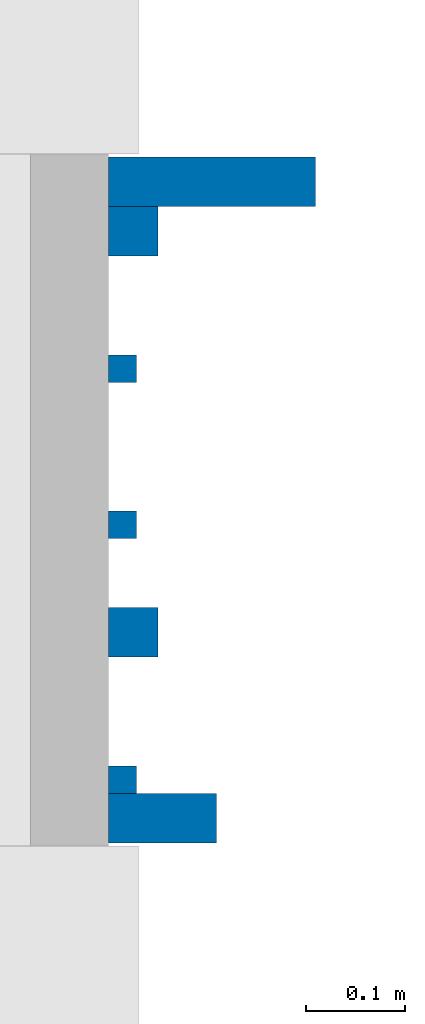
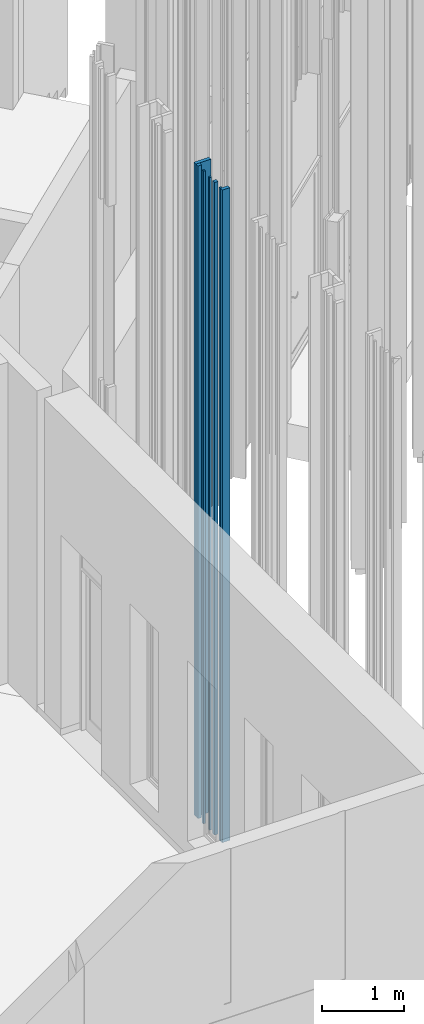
# One storey, part 191 of 390: 7 walls.
"""IFC2X3 building model written with IfcOpenShell, lengths in millimetres."""

from ifc_helpers import new_model, entity, si_unit, converted_unit, derived_unit, money_unit, direction, frame, origin_with_axes, place, context, subcontext, project, spatial, faceted_brep, material, type_object, element, save


model = new_model("IFC2X3")

# Units and contexts
model_context = context("Model", 3, precision=1e-05, world=origin_with_axes(), true_north=direction((0.0, 1.0)))
body_context = subcontext(model_context, "Body", "Model", "MODEL_VIEW")
ifc_project = project(units=[si_unit("LENGTHUNIT", "METRE", prefix="MILLI"), si_unit("AREAUNIT", "SQUARE_METRE"), si_unit("VOLUMEUNIT", "CUBIC_METRE"), converted_unit("PLANEANGLEUNIT", "DEGREE", entity("IfcPlaneAngleMeasure", 0.0174532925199), si_unit("PLANEANGLEUNIT", "RADIAN"), dimensions=[0, 0, 0, 0, 0, 0, 0]), si_unit("SOLIDANGLEUNIT", "STERADIAN"), money_unit("EUR"), converted_unit("TIMEUNIT", "Year", entity("IfcTimeMeasure", 31556926.0), si_unit("TIMEUNIT", "SECOND"), dimensions=[0, 0, 1, 0, 0, 0, 0]), si_unit("MASSUNIT", "GRAM", prefix="KILO"), si_unit("THERMODYNAMICTEMPERATUREUNIT", "DEGREE_CELSIUS"), si_unit("LUMINOUSINTENSITYUNIT", "LUMEN"), si_unit("ENERGYUNIT", "JOULE", prefix="MEGA"), derived_unit("THERMALCONDUCTANCEUNIT", [(si_unit("POWERUNIT", "WATT"), 1), (si_unit("LENGTHUNIT", "METRE"), -1), (si_unit("THERMODYNAMICTEMPERATUREUNIT", "KELVIN"), -1)]), derived_unit("SPECIFICHEATCAPACITYUNIT", [(si_unit("ENERGYUNIT", "JOULE"), 1), (si_unit("MASSUNIT", "GRAM", prefix="KILO"), -1), (si_unit("THERMODYNAMICTEMPERATUREUNIT", "KELVIN"), -1)]), derived_unit("MASSDENSITYUNIT", [(si_unit("MASSUNIT", "GRAM", prefix="KILO"), 1), (si_unit("VOLUMEUNIT", "CUBIC_METRE"), -1)])], contexts=[model_context])

# Site, building, storey
site_placement = place(None, origin_with_axes())
site = spatial("IfcSite", under=ifc_project, at=site_placement, Name="Site", CompositionType="ELEMENT")
building_placement = place(site_placement, origin_with_axes())
building = spatial("IfcBuilding", under=site, at=building_placement, Name="Building", CompositionType="ELEMENT")
storey_placement = place(building_placement, origin_with_axes())
storey = spatial("IfcBuildingStorey", under=building, at=storey_placement, Name="1 korrus", CompositionType="ELEMENT", Elevation=0.0)

# Walls
ifc_material = material(Name="Site specified")
wall_type = type_object("IfcWallType", Name="Puitfassaadi ribistik", PredefinedType="NOTDEFINED")
wall_1_placement = place(storey_placement, frame((139891.499998, 63572.0000087, 100.000000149), z_axis=(0.0, 0.0, 1.0), x_axis=(0.0, -1.0, 0.0)))
element("IfcWall", 1, at=wall_1_placement, inside=storey, type_object=wall_type, material=ifc_material, Name="Site specified", context=body_context, shape_type="Brep", body=[
    faceted_brep([(-25.0, -104.5, 9764.99999985), (-25.0, -104.5, 0.0), (25.0, -104.5, 0.0), (25.0, -104.5, 9764.99999985), (-25.0, 104.5, 9764.99999985), (-25.0, 104.5, 0.0), (25.0, 104.5, 0.0), (25.0, 104.5, 9764.99999985)], [[[0, 1, 2, 3]], [[4, 5, 1, 0]], [[2, 1, 5, 6]], [[3, 2, 6, 7]], [[4, 0, 3, 7]], [[7, 6, 5, 4]]]),
])
wall_2_placement = place(storey_placement, frame((139841.499998, 62928.0000087, 100.000000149), z_axis=(0.0, 0.0, 1.0), x_axis=(0.0, -1.0, 0.0)))
element("IfcWall", 2, at=wall_2_placement, inside=storey, type_object=wall_type, material=ifc_material, Name="Site specified", context=body_context, shape_type="Brep", body=[
    faceted_brep([(-25.0, -54.5, 9764.99999985), (-25.0, -54.5, 0.0), (25.0, -54.5, 0.0), (25.0, -54.5, 9764.99999985), (-25.0, 54.5, 9764.99999985), (-25.0, 54.5, 0.0), (25.0, 54.5, 0.0), (25.0, 54.5, 9764.99999985)], [[[0, 1, 2, 3]], [[4, 5, 1, 0]], [[2, 1, 5, 6]], [[3, 2, 6, 7]], [[4, 0, 3, 7]], [[7, 6, 5, 4]]]),
])
for number, where, z_axis, x_axis, name in (
    (3, (139800.999998, 62967.0000087, 100.000000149), (0.0, 0.0, 1.0), (0.0, -1.0, 0.0), "Site specified"),
    (4, (139800.999997, 63225.0000087, 100.000000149), (0.0, 0.0, 1.0), (0.0, -1.0, 0.0), "Site specified"),
):
    element("IfcWall", number, at=place(storey_placement, frame(where, z_axis=z_axis, x_axis=x_axis)), inside=storey, type_object=wall_type, material=ifc_material, Name=name, context=body_context, shape_type="Brep", body=[
        faceted_brep([(-14.0, -14.0, 9764.99999985), (-14.0, -14.0, 0.0), (14.0, -14.0, 0.0), (14.0, -14.0, 9764.99999985), (-14.0, 14.0, 9764.99999985), (-14.0, 14.0, 0.0), (14.0, 14.0, 0.0), (14.0, 14.0, 9764.99999985)], [[[0, 1, 2, 3]], [[4, 5, 1, 0]], [[2, 1, 5, 6]], [[3, 2, 6, 7]], [[4, 0, 3, 7]], [[7, 6, 5, 4]]]),
    ])
for number, where, z_axis, x_axis, name in (
    (5, (139811.999998, 63522.0000087, 100.000000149), (0.0, 0.0, 1.0), (0.0, -1.0, 0.0), "Site specified"),
    (6, (139811.999997, 63116.0000087, 100.000000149), (0.0, 0.0, 1.0), (0.0, -1.0, 0.0), "Site specified"),
):
    element("IfcWall", number, at=place(storey_placement, frame(where, z_axis=z_axis, x_axis=x_axis)), inside=storey, type_object=wall_type, material=ifc_material, Name=name, context=body_context, shape_type="Brep", body=[
        faceted_brep([(-25.0, -25.0, 9764.99999985), (-25.0, -25.0, 0.0), (25.0, -25.0, 0.0), (25.0, -25.0, 9764.99999985), (-25.0, 25.0, 9764.99999985), (-25.0, 25.0, 0.0), (25.0, 25.0, 0.0), (25.0, 25.0, 9764.99999985)], [[[0, 1, 2, 3]], [[4, 5, 1, 0]], [[2, 1, 5, 6]], [[3, 2, 6, 7]], [[4, 0, 3, 7]], [[7, 6, 5, 4]]]),
    ])
wall_3_placement = place(storey_placement, frame((139800.999997, 63383.0000087, 100.000000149), z_axis=(0.0, 0.0, 1.0), x_axis=(0.0, -1.0, 0.0)))
element("IfcWall", 7, at=wall_3_placement, inside=storey, type_object=wall_type, material=ifc_material, Name="Site specified", context=body_context, shape_type="Brep", body=[
    faceted_brep([(-14.0, -14.0, 9764.99999985), (-14.0, -14.0, 0.0), (14.0, -14.0, 0.0), (14.0, -14.0, 9764.99999985), (-14.0, 14.0, 9764.99999985), (-14.0, 14.0, 0.0), (14.0, 14.0, 0.0), (14.0, 14.0, 9764.99999985)], [[[0, 1, 2, 3]], [[4, 5, 1, 0]], [[2, 1, 5, 6]], [[3, 2, 6, 7]], [[4, 0, 3, 7]], [[7, 6, 5, 4]]]),
])

save(model, "model.ifc")
